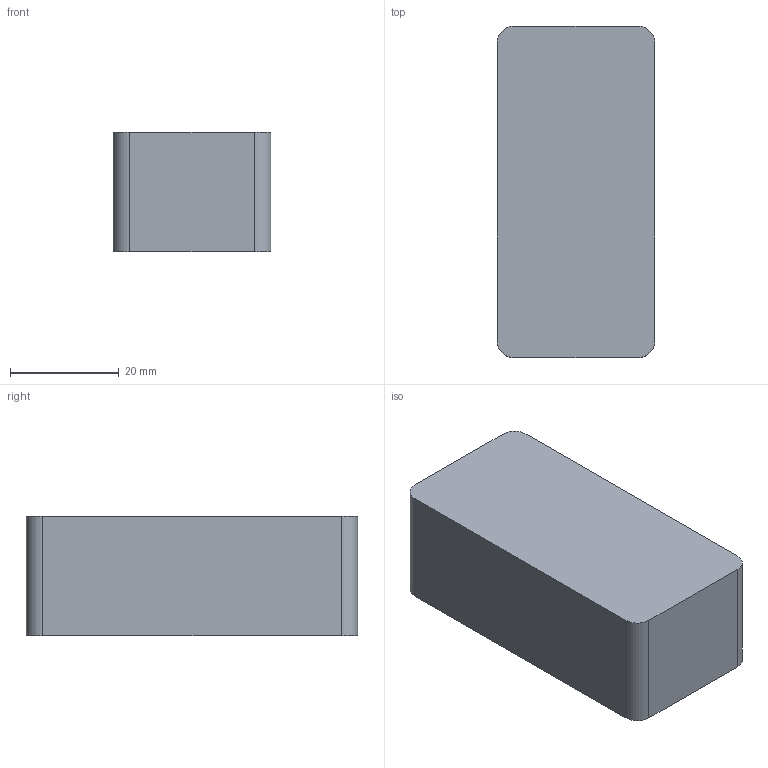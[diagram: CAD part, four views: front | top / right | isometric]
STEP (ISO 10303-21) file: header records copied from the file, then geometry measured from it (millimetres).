
FILE_DESCRIPTION(('Open CASCADE Model'),'2;1');
FILE_NAME('Open CASCADE Shape Model','2026-11-05T01:23:31',('Author'),( 'Open CASCADE'),'Open CASCADE STEP processor 7.8','Open CASCADE 7.8' ,'Unknown');
FILE_SCHEMA(('AUTOMOTIVE_DESIGN { 1 0 10303 214 1 1 1 1 }'));
Length unit declared in the file: millimetre
Products named in the file (1): Open CASCADE STEP translator 7.8 18
Bounding box: 29 x 61 x 22 mm (x, y, z)
Volume: 38748 mm3; surface area: 7369.2 mm2
Topology: 1 solids, 1 shells, 10 faces, 24 edges, 16 vertices
Faces by surface type: plane 6, cylinder 4
Entity records: 630 total; most frequent: CARTESIAN_POINT 123, DIRECTION 98, LINE 56, VECTOR 56, ORIENTED_EDGE 48, PCURVE 48, DEFINITIONAL_REPRESENTATION 48, EDGE_CURVE 24
